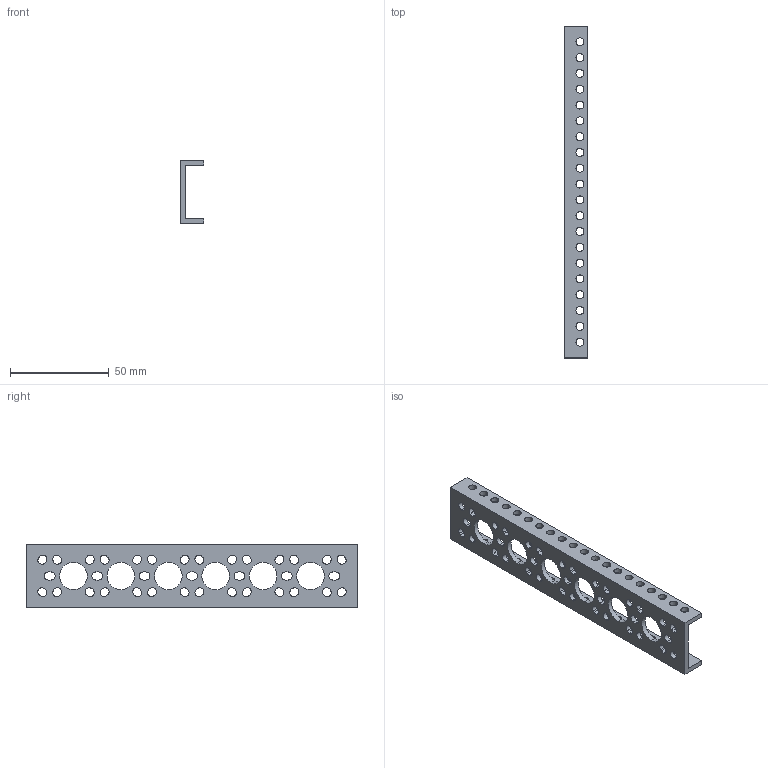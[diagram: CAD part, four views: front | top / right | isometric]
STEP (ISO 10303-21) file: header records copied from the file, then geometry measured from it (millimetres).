
FILE_DESCRIPTION (( 'STEP AP203' ), '1' );
FILE_NAME ('1143-0006-0168.STEP', '2022-04-26T17:03:37', ( '' ), ( '' ), 'SwSTEP 2.0', 'SolidWorks 2016', '' );
FILE_SCHEMA (( 'CONFIG_CONTROL_DESIGN' ));
Length unit declared in the file: millimetre
Products named in the file (1): 1143-0006-0168
Bounding box: 12 x 168 x 32 mm (x, y, z)
Volume: 16403.6 mm3; surface area: 17407.4 mm2
Topology: 1 solids, 1 shells, 270 faces, 804 edges, 536 vertices
Faces by surface type: cylinder 190, plane 80
Entity records: 9649 total; most frequent: DIRECTION 1726, CARTESIAN_POINT 1611, ORIENTED_EDGE 1608, EDGE_CURVE 804, AXIS2_PLACEMENT_3D 651, VERTEX_POINT 536, EDGE_LOOP 432, VECTOR 424
